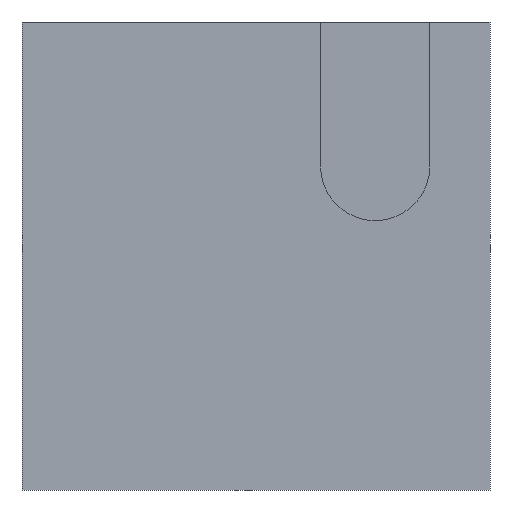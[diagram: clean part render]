
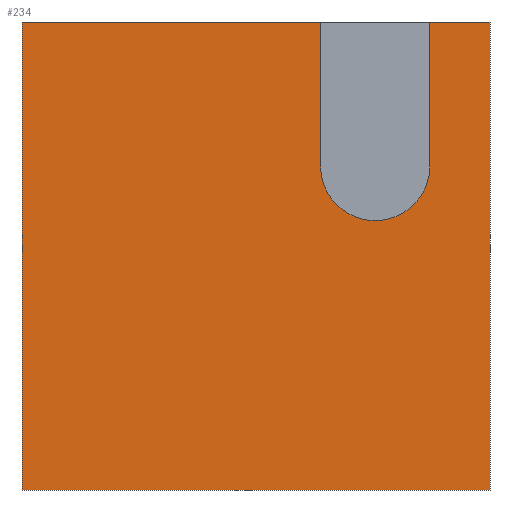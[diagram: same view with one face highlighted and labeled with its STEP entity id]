
A CAD part, front view. The second image highlights one B-rep face of the part: STEP entity #234.
In plain terms, the highlighted planar face has unit normal (0, -1, 0).
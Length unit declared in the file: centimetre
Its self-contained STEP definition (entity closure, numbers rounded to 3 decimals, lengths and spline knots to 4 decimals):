
#1 = VECTOR ( 'NONE', #313, 100. ) ;
#7 = VECTOR ( 'NONE', #333, 100. ) ;
#23 = CARTESIAN_POINT ( 'NONE',  ( 1000., 0., 1000. ) ) ;
#28 = VECTOR ( 'NONE', #296, 100. ) ;
#32 = DIRECTION ( 'NONE',  ( 0., -1., 0. ) ) ;
#39 = DIRECTION ( 'NONE',  ( 1., 0., 0. ) ) ;
#46 = EDGE_CURVE ( 'NONE', #233, #455, #448, .T. ) ;
#64 = LINE ( 'NONE', #218, #7 ) ;
#66 = CARTESIAN_POINT ( 'NONE',  ( 871.602, 0., 1000. ) ) ;
#67 = EDGE_CURVE ( 'NONE', #85, #394, #107, .T. ) ;
#69 = CARTESIAN_POINT ( 'NONE',  ( 0., 0., 1000. ) ) ;
#70 = CARTESIAN_POINT ( 'NONE',  ( 871.602, 0., 692.4291 ) ) ;
#72 = AXIS2_PLACEMENT_3D ( 'NONE', #189, #83, #153 ) ;
#78 = ORIENTED_EDGE ( 'NONE', *, *, #464, .F. ) ;
#83 = DIRECTION ( 'NONE',  ( 0., -1., 0. ) ) ;
#85 = VERTEX_POINT ( 'NONE', #70 ) ;
#86 = VECTOR ( 'NONE', #251, 100. ) ;
#88 = DIRECTION ( 'NONE',  ( 0., 1., 0. ) ) ;
#98 = DIRECTION ( 'NONE',  ( 0., 0., 1. ) ) ;
#100 = ORIENTED_EDGE ( 'NONE', *, *, #117, .F. ) ;
#106 = CIRCLE ( 'NONE', #72, 116.9474 ) ;
#107 = LINE ( 'NONE', #66, #171 ) ;
#110 = EDGE_CURVE ( 'NONE', #141, #85, #106, .T. ) ;
#113 = CARTESIAN_POINT ( 'NONE',  ( 871.602, 0., 1000. ) ) ;
#114 = LINE ( 'NONE', #119, #1 ) ;
#117 = EDGE_CURVE ( 'NONE', #269, #239, #227, .T. ) ;
#118 = ORIENTED_EDGE ( 'NONE', *, *, #110, .F. ) ;
#119 = CARTESIAN_POINT ( 'NONE',  ( 1000., 0., 1000. ) ) ;
#128 = VERTEX_POINT ( 'NONE', #393 ) ;
#129 = CARTESIAN_POINT ( 'NONE',  ( 0., 0., 1000. ) ) ;
#137 = DIRECTION ( 'NONE',  ( 0., 0., 1. ) ) ;
#141 = VERTEX_POINT ( 'NONE', #266 ) ;
#145 = LINE ( 'NONE', #69, #28 ) ;
#152 = CARTESIAN_POINT ( 'NONE',  ( 1000., 0., 0. ) ) ;
#153 = DIRECTION ( 'NONE',  ( 0., 0., 1. ) ) ;
#161 = ORIENTED_EDGE ( 'NONE', *, *, #67, .F. ) ;
#165 = ORIENTED_EDGE ( 'NONE', *, *, #274, .F. ) ;
#166 = PLANE ( 'NONE',  #167 ) ;
#167 = AXIS2_PLACEMENT_3D ( 'NONE', #129, #88, #137 ) ;
#171 = VECTOR ( 'NONE', #180, 100. ) ;
#180 = DIRECTION ( 'NONE',  ( 0., 0., 1. ) ) ;
#189 = CARTESIAN_POINT ( 'NONE',  ( 754.6546, 0., 692.4291 ) ) ;
#192 = CARTESIAN_POINT ( 'NONE',  ( 0., 0., 1000. ) ) ;
#205 = CIRCLE ( 'NONE', #308, 116.9474 ) ;
#218 = CARTESIAN_POINT ( 'NONE',  ( 637.7071, 0., 692.4291 ) ) ;
#220 = DIRECTION ( 'NONE',  ( 1., 0., 0. ) ) ;
#227 = LINE ( 'NONE', #192, #243 ) ;
#233 = VERTEX_POINT ( 'NONE', #275 ) ;
#234 = ADVANCED_FACE ( 'NONE', ( #474 ), #166, .F. ) ;
#239 = VERTEX_POINT ( 'NONE', #413 ) ;
#243 = VECTOR ( 'NONE', #39, 100. ) ;
#245 = EDGE_CURVE ( 'NONE', #269, #233, #145, .T. ) ;
#249 = CARTESIAN_POINT ( 'NONE',  ( 0., 0., 1000. ) ) ;
#251 = DIRECTION ( 'NONE',  ( 1., 0., 0. ) ) ;
#257 = CARTESIAN_POINT ( 'NONE',  ( 0., 0., 1000. ) ) ;
#258 = VECTOR ( 'NONE', #220, 100. ) ;
#266 = CARTESIAN_POINT ( 'NONE',  ( 754.6546, 0., 575.4817 ) ) ;
#269 = VERTEX_POINT ( 'NONE', #249 ) ;
#274 = EDGE_CURVE ( 'NONE', #239, #128, #64, .T. ) ;
#275 = CARTESIAN_POINT ( 'NONE',  ( 0., 0., 0. ) ) ;
#290 = ORIENTED_EDGE ( 'NONE', *, *, #46, .T. ) ;
#291 = CARTESIAN_POINT ( 'NONE',  ( 754.6546, 0., 692.4291 ) ) ;
#296 = DIRECTION ( 'NONE',  ( 0., 0., -1. ) ) ;
#301 = EDGE_CURVE ( 'NONE', #128, #141, #205, .T. ) ;
#308 = AXIS2_PLACEMENT_3D ( 'NONE', #291, #32, #98 ) ;
#309 = ORIENTED_EDGE ( 'NONE', *, *, #406, .F. ) ;
#313 = DIRECTION ( 'NONE',  ( 0., 0., -1. ) ) ;
#333 = DIRECTION ( 'NONE',  ( 0., 0., -1. ) ) ;
#341 = CARTESIAN_POINT ( 'NONE',  ( 0., 0., 0. ) ) ;
#353 = VERTEX_POINT ( 'NONE', #23 ) ;
#393 = CARTESIAN_POINT ( 'NONE',  ( 637.7071, 0., 692.4291 ) ) ;
#394 = VERTEX_POINT ( 'NONE', #113 ) ;
#406 = EDGE_CURVE ( 'NONE', #394, #353, #481, .T. ) ;
#413 = CARTESIAN_POINT ( 'NONE',  ( 637.7071, 0., 1000. ) ) ;
#428 = ORIENTED_EDGE ( 'NONE', *, *, #301, .F. ) ;
#438 = ORIENTED_EDGE ( 'NONE', *, *, #245, .T. ) ;
#448 = LINE ( 'NONE', #341, #86 ) ;
#455 = VERTEX_POINT ( 'NONE', #152 ) ;
#464 = EDGE_CURVE ( 'NONE', #353, #455, #114, .T. ) ;
#474 = FACE_OUTER_BOUND ( 'NONE', #485, .T. ) ;
#481 = LINE ( 'NONE', #257, #258 ) ;
#485 = EDGE_LOOP ( 'NONE', ( #428, #165, #100, #438, #290, #78, #309, #161, #118 ) ) ;
